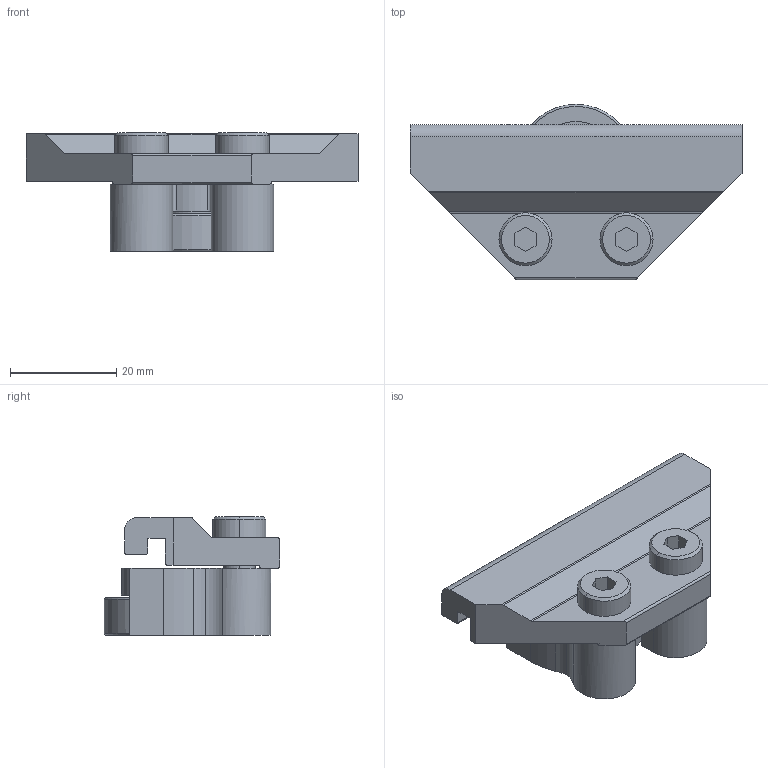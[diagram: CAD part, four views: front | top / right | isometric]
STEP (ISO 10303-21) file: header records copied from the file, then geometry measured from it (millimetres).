
FILE_DESCRIPTION((''),'2;1');
FILE_NAME('240832_ASM','2023-03-03T',('jenni.wallner'),(''),'PRO/ENGINEER BY PARAMETRIC TECHNOLOGY CORPORATION, 2012420','PRO/ENGINEER BY PARAMETRIC TECHNOLOGY CORPORATION, 2012420','');
FILE_SCHEMA(('CONFIG_CONTROL_DESIGN'));
Length unit declared in the file: inch
Products named in the file (7): 802-027; 9506XXM_950616M; 240825; 205977_205978_205979_205979; 913-100; ASM0001_ASM; 240832_ASM
Assembly tree (7 placements, depth 3):
  240832_ASM
    ASM0001_ASM
      802-027
      9506XXM_950616M  x2
      240825
      205977_205978_205979_205979
      913-100
Bounding box: 62.61 x 33.07 x 22.41 mm (x, y, z)
Volume: 17672.7 mm3; surface area: 10945.4 mm2
Topology: 6 solids, 6 shells, 131 faces, 337 edges, 224 vertices
Faces by surface type: plane 56, cylinder 55, cone 12, torus 8
Entity records: 3819 total; most frequent: DIRECTION 691, CARTESIAN_POINT 664, ORIENTED_EDGE 598, EDGE_CURVE 299, AXIS2_PLACEMENT_3D 269, VERTEX_POINT 200, VECTOR 153, LINE 153
